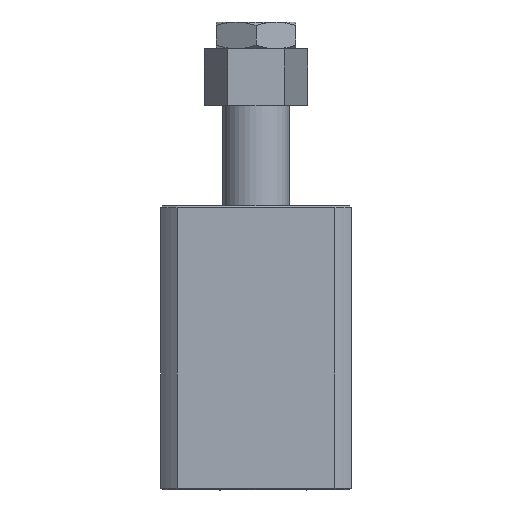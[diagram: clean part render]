
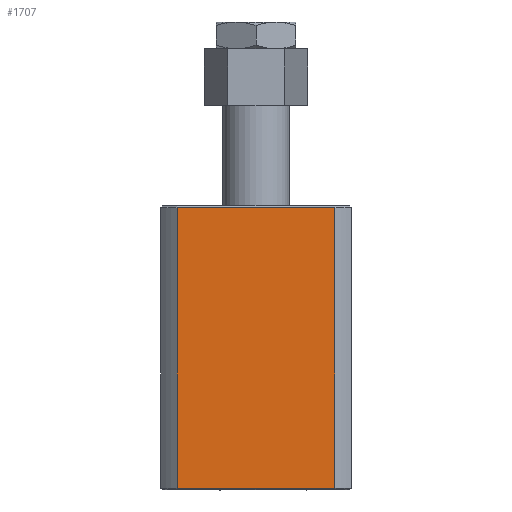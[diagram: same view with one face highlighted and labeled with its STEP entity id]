
A CAD part, left-side view. The second image highlights one B-rep face of the part: STEP entity #1707.
In plain terms, the highlighted planar face has unit normal (-1, 0, 0).
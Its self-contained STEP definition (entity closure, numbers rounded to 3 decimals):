
#153=LINE('',#2988,#243);
#165=LINE('',#3026,#255);
#166=LINE('',#3032,#256);
#167=LINE('',#3033,#257);
#243=VECTOR('',#2458,1000.);
#255=VECTOR('',#2496,1000.);
#256=VECTOR('',#2503,1000.);
#257=VECTOR('',#2504,1000.);
#385=ORIENTED_EDGE('',*,*,#792,.F.);
#386=ORIENTED_EDGE('',*,*,#814,.T.);
#387=ORIENTED_EDGE('',*,*,#811,.T.);
#388=ORIENTED_EDGE('',*,*,#815,.T.);
#792=EDGE_CURVE('',#1012,#1013,#153,.T.);
#811=EDGE_CURVE('',#1026,#1027,#165,.T.);
#814=EDGE_CURVE('',#1012,#1026,#166,.T.);
#815=EDGE_CURVE('',#1027,#1013,#167,.T.);
#1012=VERTEX_POINT('',#2987);
#1013=VERTEX_POINT('',#2989);
#1026=VERTEX_POINT('',#3027);
#1027=VERTEX_POINT('',#3028);
#1264=EDGE_LOOP('',(#385,#386,#387,#388));
#1460=FACE_BOUND('',#1264,.T.);
#1631=PLANE('',#2207);
#1707=ADVANCED_FACE('',(#1460),#1631,.F.);
#2207=AXIS2_PLACEMENT_3D('',#3031,#2501,#2502);
#2458=DIRECTION('',(0.,0.,1.));
#2496=DIRECTION('',(0.,0.,1.));
#2501=DIRECTION('',(1.,0.,0.));
#2502=DIRECTION('',(0.,1.,0.));
#2503=DIRECTION('',(0.,-1.,0.));
#2504=DIRECTION('',(0.,1.,0.));
#2987=CARTESIAN_POINT('',(-10.25,58.596,-69.5));
#2988=CARTESIAN_POINT('',(-10.25,58.596,-70.));
#2989=CARTESIAN_POINT('',(-10.25,58.596,14.5));
#3026=CARTESIAN_POINT('',(-10.25,11.404,-70.));
#3027=CARTESIAN_POINT('',(-10.25,11.404,-69.5));
#3028=CARTESIAN_POINT('',(-10.25,11.404,14.5));
#3031=CARTESIAN_POINT('',(-10.25,58.596,-70.));
#3032=CARTESIAN_POINT('',(-10.25,11.404,-69.5));
#3033=CARTESIAN_POINT('',(-10.25,58.596,14.5));
